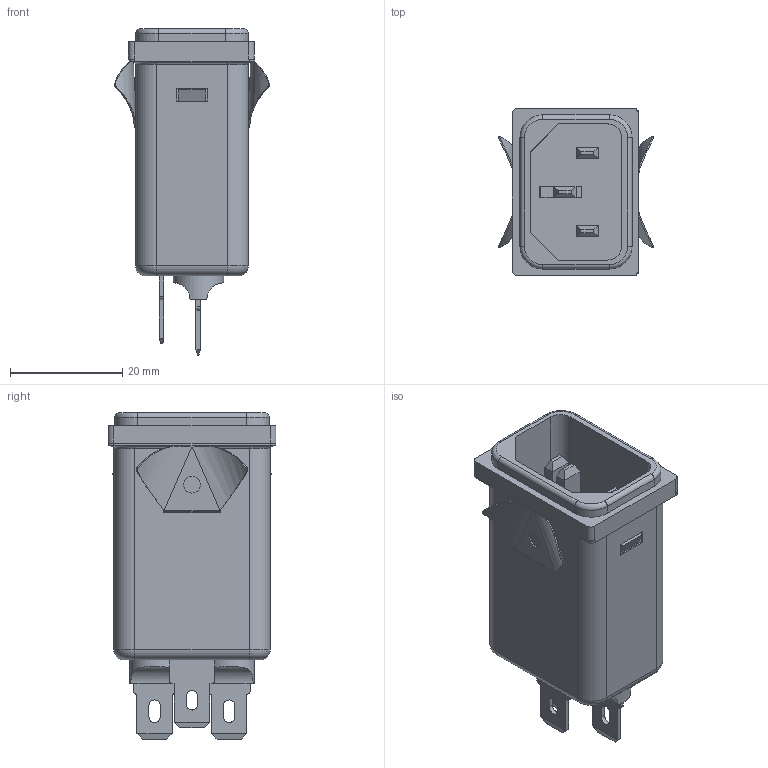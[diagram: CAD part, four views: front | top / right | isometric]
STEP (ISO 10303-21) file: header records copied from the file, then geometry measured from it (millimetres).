
FILE_DESCRIPTION((''),'2;1');
FILE_NAME('D:\_ PRODUCT\FN_PART_FOR_FN9222-XX-07\FN_UPDATE\DB_06 version_Update\3D_inventer\234-177C\FN9222S1-xx-06.stp','2013-06-06T10:24:13',('sayan.penton'),(''),'Autodesk Inventor 2010','Autodesk Inventor 2010','');
FILE_SCHEMA(('AUTOMOTIVE_DESIGN { 1 0 10303 214 1 1 1 1 }'));
Length unit declared in the file: millimetre
Products named in the file (1): Part5
Bounding box: 27.66 x 29.9 x 58.2 mm (x, y, z)
Volume: 7905.7 mm3; surface area: 18556 mm2
Topology: 1 solids, 3 shells, 668 faces, 1863 edges, 1200 vertices
Faces by surface type: plane 457, cylinder 134, bspline 65, torus 12
Full cylindrical faces by diameter (mm): 3 x1, 9 x2, 9.5 x2
Entity records: 22943 total; most frequent: CARTESIAN_POINT 5090, ORIENTED_EDGE 3710, DIRECTION 3310, EDGE_CURVE 1855, VECTOR 1480, LINE 1480, VERTEX_POINT 1198, AXIS2_PLACEMENT_3D 915
